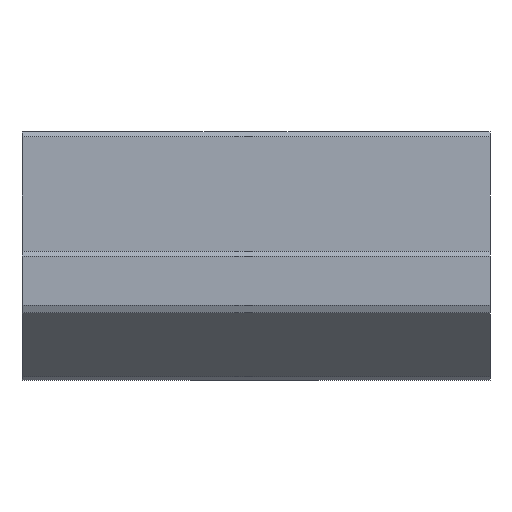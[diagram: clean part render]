
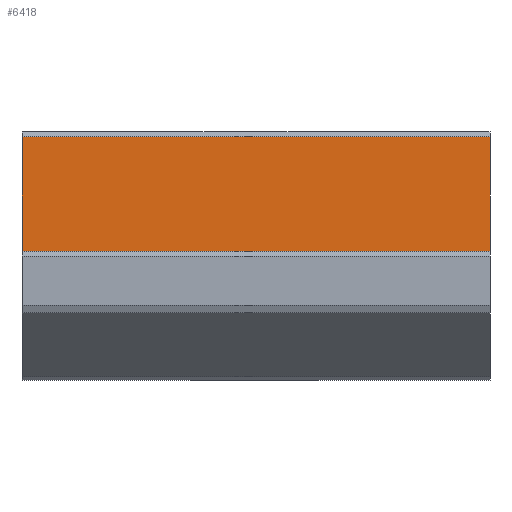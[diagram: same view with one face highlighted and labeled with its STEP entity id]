
A CAD part, left-side view. The second image highlights one B-rep face of the part: STEP entity #6418.
In plain terms, the highlighted planar face has unit normal (-1, 0, 0).
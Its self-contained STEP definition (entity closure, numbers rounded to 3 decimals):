
#44 = PLANE('',#45);
#45 = AXIS2_PLACEMENT_3D('',#46,#47,#48);
#46 = CARTESIAN_POINT('',(12.453,-20.,-35.9));
#47 = DIRECTION('',(0.,1.,0.));
#48 = DIRECTION('',(0.,-0.,1.));
#72 = PLANE('',#73);
#73 = AXIS2_PLACEMENT_3D('',#74,#75,#76);
#74 = CARTESIAN_POINT('',(-4.9,-40.,4.9));
#75 = DIRECTION('',(0.707,0.,-0.707));
#76 = DIRECTION('',(-0.707,0.,-0.707));
#100 = PLANE('',#101);
#101 = AXIS2_PLACEMENT_3D('',#102,#103,#104);
#102 = CARTESIAN_POINT('',(-4.9,-40.,5.1));
#103 = DIRECTION('',(0.,-1.,0.));
#104 = DIRECTION('',(0.,0.,-1.));
#700 = VERTEX_POINT('',#701);
#701 = CARTESIAN_POINT('',(-4.9,-20.,0.));
#715 = PLANE('',#716);
#716 = AXIS2_PLACEMENT_3D('',#717,#718,#719);
#717 = CARTESIAN_POINT('',(-9.75,-40.,0.));
#718 = DIRECTION('',(0.,0.,-1.));
#719 = DIRECTION('',(-1.,0.,0.));
#727 = EDGE_CURVE('',#700,#728,#730,.T.);
#728 = VERTEX_POINT('',#729);
#729 = CARTESIAN_POINT('',(-4.9,-20.,4.9));
#730 = SURFACE_CURVE('',#731,(#735,#742),.PCURVE_S1.);
#731 = LINE('',#732,#733);
#732 = CARTESIAN_POINT('',(-4.9,-20.,5.1));
#733 = VECTOR('',#734,1.);
#734 = DIRECTION('',(0.,0.,1.));
#735 = PCURVE('',#44,#736);
#736 = DEFINITIONAL_REPRESENTATION('',(#737),#741);
#737 = LINE('',#738,#739);
#738 = CARTESIAN_POINT('',(41.,-17.353));
#739 = VECTOR('',#740,1.);
#740 = DIRECTION('',(1.,0.));
#741 = ( GEOMETRIC_REPRESENTATION_CONTEXT(2) 
PARAMETRIC_REPRESENTATION_CONTEXT() REPRESENTATION_CONTEXT('2D SPACE',''
  ) );
#742 = PCURVE('',#743,#748);
#743 = PLANE('',#744);
#744 = AXIS2_PLACEMENT_3D('',#745,#746,#747);
#745 = CARTESIAN_POINT('',(-4.9,-40.,5.1));
#746 = DIRECTION('',(1.,0.,0.));
#747 = DIRECTION('',(0.,0.,-1.));
#748 = DEFINITIONAL_REPRESENTATION('',(#749),#753);
#749 = LINE('',#750,#751);
#750 = CARTESIAN_POINT('',(0.,20.));
#751 = VECTOR('',#752,1.);
#752 = DIRECTION('',(-1.,0.));
#753 = ( GEOMETRIC_REPRESENTATION_CONTEXT(2) 
PARAMETRIC_REPRESENTATION_CONTEXT() REPRESENTATION_CONTEXT('2D SPACE',''
  ) );
#5359 = VERTEX_POINT('',#5360);
#5360 = CARTESIAN_POINT('',(-4.9,-40.,4.9));
#5381 = EDGE_CURVE('',#5359,#5382,#5384,.T.);
#5382 = VERTEX_POINT('',#5383);
#5383 = CARTESIAN_POINT('',(-4.9,-40.,0.));
#5384 = SURFACE_CURVE('',#5385,(#5389,#5396),.PCURVE_S1.);
#5385 = LINE('',#5386,#5387);
#5386 = CARTESIAN_POINT('',(-4.9,-40.,5.1));
#5387 = VECTOR('',#5388,1.);
#5388 = DIRECTION('',(0.,0.,-1.));
#5389 = PCURVE('',#100,#5390);
#5390 = DEFINITIONAL_REPRESENTATION('',(#5391),#5395);
#5391 = LINE('',#5392,#5393);
#5392 = CARTESIAN_POINT('',(0.,0.));
#5393 = VECTOR('',#5394,1.);
#5394 = DIRECTION('',(1.,0.));
#5395 = ( GEOMETRIC_REPRESENTATION_CONTEXT(2) 
PARAMETRIC_REPRESENTATION_CONTEXT() REPRESENTATION_CONTEXT('2D SPACE',''
  ) );
#5396 = PCURVE('',#743,#5397);
#5397 = DEFINITIONAL_REPRESENTATION('',(#5398),#5402);
#5398 = LINE('',#5399,#5400);
#5399 = CARTESIAN_POINT('',(0.,0.));
#5400 = VECTOR('',#5401,1.);
#5401 = DIRECTION('',(1.,0.));
#5402 = ( GEOMETRIC_REPRESENTATION_CONTEXT(2) 
PARAMETRIC_REPRESENTATION_CONTEXT() REPRESENTATION_CONTEXT('2D SPACE',''
  ) );
#6085 = EDGE_CURVE('',#5359,#728,#6086,.T.);
#6086 = SURFACE_CURVE('',#6087,(#6091,#6098),.PCURVE_S1.);
#6087 = LINE('',#6088,#6089);
#6088 = CARTESIAN_POINT('',(-4.9,-40.,4.9));
#6089 = VECTOR('',#6090,1.);
#6090 = DIRECTION('',(0.,1.,0.));
#6091 = PCURVE('',#72,#6092);
#6092 = DEFINITIONAL_REPRESENTATION('',(#6093),#6097);
#6093 = LINE('',#6094,#6095);
#6094 = CARTESIAN_POINT('',(0.,0.));
#6095 = VECTOR('',#6096,1.);
#6096 = DIRECTION('',(0.,1.));
#6097 = ( GEOMETRIC_REPRESENTATION_CONTEXT(2) 
PARAMETRIC_REPRESENTATION_CONTEXT() REPRESENTATION_CONTEXT('2D SPACE',''
  ) );
#6098 = PCURVE('',#743,#6099);
#6099 = DEFINITIONAL_REPRESENTATION('',(#6100),#6104);
#6100 = LINE('',#6101,#6102);
#6101 = CARTESIAN_POINT('',(0.2,0.));
#6102 = VECTOR('',#6103,1.);
#6103 = DIRECTION('',(0.,1.));
#6104 = ( GEOMETRIC_REPRESENTATION_CONTEXT(2) 
PARAMETRIC_REPRESENTATION_CONTEXT() REPRESENTATION_CONTEXT('2D SPACE',''
  ) );
#6418 = ADVANCED_FACE('',(#6419),#743,.F.);
#6419 = FACE_BOUND('',#6420,.T.);
#6420 = EDGE_LOOP('',(#6421,#6422,#6443,#6444));
#6421 = ORIENTED_EDGE('',*,*,#727,.F.);
#6422 = ORIENTED_EDGE('',*,*,#6423,.F.);
#6423 = EDGE_CURVE('',#5382,#700,#6424,.T.);
#6424 = SURFACE_CURVE('',#6425,(#6429,#6436),.PCURVE_S1.);
#6425 = LINE('',#6426,#6427);
#6426 = CARTESIAN_POINT('',(-4.9,-40.,0.));
#6427 = VECTOR('',#6428,1.);
#6428 = DIRECTION('',(0.,1.,0.));
#6429 = PCURVE('',#743,#6430);
#6430 = DEFINITIONAL_REPRESENTATION('',(#6431),#6435);
#6431 = LINE('',#6432,#6433);
#6432 = CARTESIAN_POINT('',(5.1,0.));
#6433 = VECTOR('',#6434,1.);
#6434 = DIRECTION('',(0.,1.));
#6435 = ( GEOMETRIC_REPRESENTATION_CONTEXT(2) 
PARAMETRIC_REPRESENTATION_CONTEXT() REPRESENTATION_CONTEXT('2D SPACE',''
  ) );
#6436 = PCURVE('',#715,#6437);
#6437 = DEFINITIONAL_REPRESENTATION('',(#6438),#6442);
#6438 = LINE('',#6439,#6440);
#6439 = CARTESIAN_POINT('',(-4.85,0.));
#6440 = VECTOR('',#6441,1.);
#6441 = DIRECTION('',(0.,1.));
#6442 = ( GEOMETRIC_REPRESENTATION_CONTEXT(2) 
PARAMETRIC_REPRESENTATION_CONTEXT() REPRESENTATION_CONTEXT('2D SPACE',''
  ) );
#6443 = ORIENTED_EDGE('',*,*,#5381,.F.);
#6444 = ORIENTED_EDGE('',*,*,#6085,.T.);
